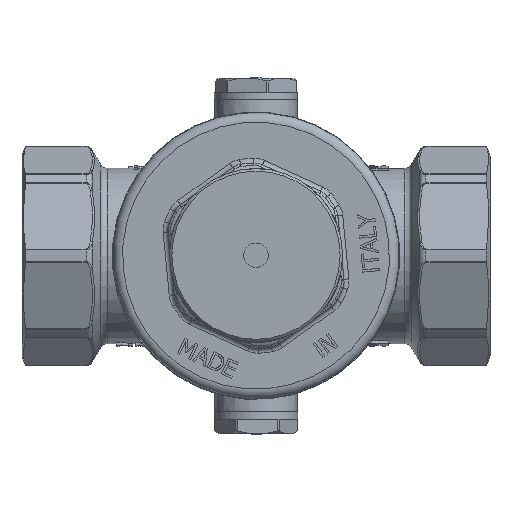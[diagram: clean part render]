
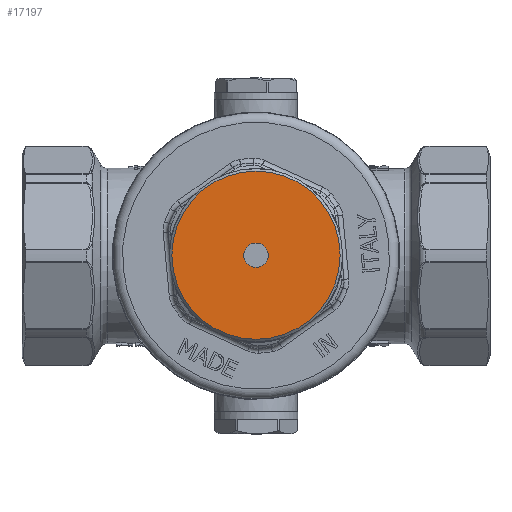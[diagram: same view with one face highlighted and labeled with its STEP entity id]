
A CAD part, top view. The second image highlights one B-rep face of the part: STEP entity #17197.
In plain terms, the highlighted planar face has unit normal (0, 0, 1).
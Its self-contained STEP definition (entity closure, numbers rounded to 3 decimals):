
#2831=FACE_BOUND('',#4684,.T.);
#2904=PLANE('',#18374);
#3636=FACE_OUTER_BOUND('',#4683,.T.);
#4683=EDGE_LOOP('',(#12121));
#4684=EDGE_LOOP('',(#12122));
#6570=CIRCLE('',#18372,17.25);
#6571=CIRCLE('',#18375,2.5);
#7383=VERTEX_POINT('',#24787);
#7384=VERTEX_POINT('',#24793);
#9181=EDGE_CURVE('',#7383,#7383,#6570,.T.);
#9183=EDGE_CURVE('',#7384,#7384,#6571,.T.);
#12121=ORIENTED_EDGE('',*,*,#9181,.F.);
#12122=ORIENTED_EDGE('',*,*,#9183,.T.);
#17197=ADVANCED_FACE('',(#3636,#2831),#2904,.F.);
#18372=AXIS2_PLACEMENT_3D('',#24789,#20175,#20176);
#18374=AXIS2_PLACEMENT_3D('',#24792,#20180,#20181);
#18375=AXIS2_PLACEMENT_3D('',#24794,#20182,#20183);
#20175=DIRECTION('center_axis',(0.,0.,
-1.));
#20176=DIRECTION('ref_axis',(-1.,0.,0.));
#20180=DIRECTION('center_axis',(0.,0.,
-1.));
#20181=DIRECTION('ref_axis',(-1.,0.,0.));
#20182=DIRECTION('center_axis',(0.,0.,
-1.));
#20183=DIRECTION('ref_axis',(1.,0.,0.));
#24787=CARTESIAN_POINT('',(17.25,0.,129.));
#24789=CARTESIAN_POINT('Origin',(0.,0.,
129.));
#24792=CARTESIAN_POINT('Origin',(0.,0.,
129.));
#24793=CARTESIAN_POINT('',(-2.5,0.,129.));
#24794=CARTESIAN_POINT('Origin',(0.,0.,
129.));
